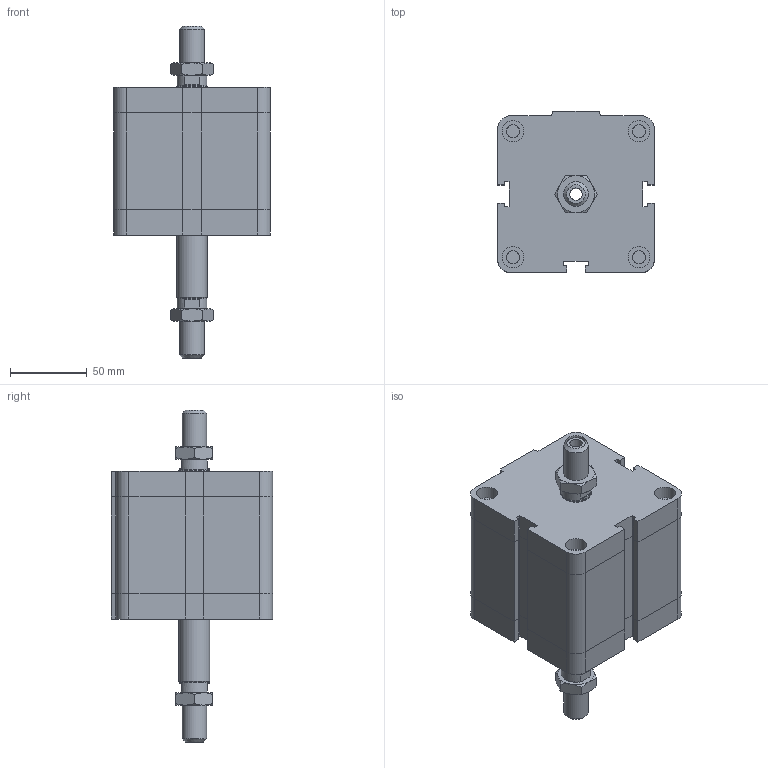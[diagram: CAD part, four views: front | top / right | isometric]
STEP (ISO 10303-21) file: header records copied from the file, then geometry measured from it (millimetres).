
FILE_DESCRIPTION((''),'2;1');
FILE_NAME('I:\Area Tecnica\Disegni\VARIE-3D\Componenti\EUROPE\15##_###_####_05_#\1581_80_0040_05_1.iam.stp','2009-04-20T15:03:00',(''),(''),'Autodesk Inventor 2009','Autodesk Inventor 2009','');
FILE_SCHEMA(('AUTOMOTIVE_DESIGN { 1 0 10303 214 1 1 1 1 }'));
Length unit declared in the file: millimetre
Products named in the file (4): 1581_80_0040_05_1; 1581_80_0040_03_1_C; 1561_80_0040_05_1_S; DBFM16
Assembly tree (4 placements, depth 2):
  1581_80_0040_05_1
    1581_80_0040_03_1_C
    1561_80_0040_05_1_S
    DBFM16  x2
Bounding box: 102 x 105 x 216 mm (x, y, z)
Volume: 978455.9 mm3; surface area: 99008.9 mm2
Topology: 4 solids, 4 shells, 223 faces, 486 edges, 291 vertices
Faces by surface type: plane 129, cone 37, bspline 32, cylinder 25
Full cylindrical faces by diameter (mm): 8.376 x4, 14 x4, 14.5 x1, 16 x1, 19.5 x2, 20 x1
Entity records: 5484 total; most frequent: CARTESIAN_POINT 1227, DIRECTION 808, ORIENTED_EDGE 776, EDGE_CURVE 388, AXIS2_PLACEMENT_3D 275, EDGE_LOOP 262, VECTOR 258, LINE 258
